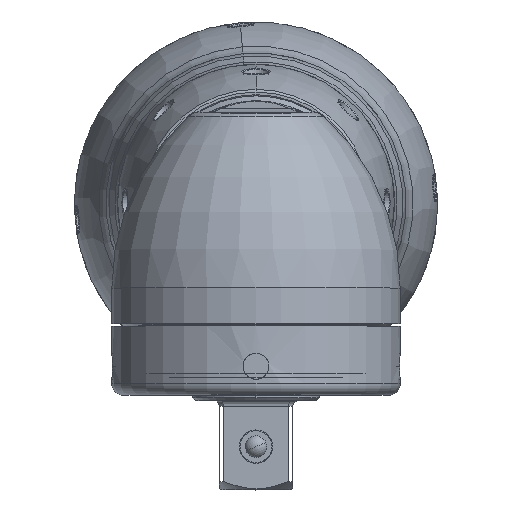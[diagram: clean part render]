
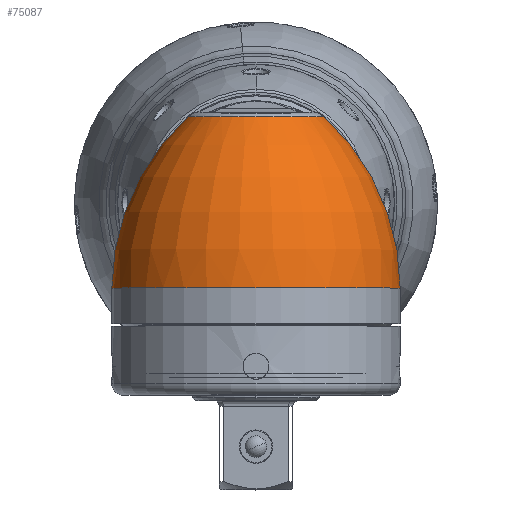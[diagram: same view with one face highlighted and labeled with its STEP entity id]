
A CAD part, top view. The second image highlights one B-rep face of the part: STEP entity #75087.
In plain terms, the highlighted toroidal (fillet/blend) face has major radius 15 mm and minor radius 40 mm.
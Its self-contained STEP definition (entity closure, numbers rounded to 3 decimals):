
#456 = VERTEX_POINT ( 'NONE', #47723 ) ;
#1076 = DIRECTION ( 'NONE',  ( -1., 0., 0. ) ) ;
#4790 = DIRECTION ( 'NONE',  ( 0., -1., 0. ) ) ;
#5847 = EDGE_CURVE ( 'NONE', #23508, #8789, #52778, .T. ) ;
#6838 = ORIENTED_EDGE ( 'NONE', *, *, #12906, .T. ) ;
#8789 = VERTEX_POINT ( 'NONE', #15214 ) ;
#9683 = AXIS2_PLACEMENT_3D ( 'NONE', #14654, #72864, #68203 ) ;
#11743 = CARTESIAN_POINT ( 'NONE',  ( 0., -15., 532.8 ) ) ;
#12610 = DIRECTION ( 'NONE',  ( 0., 0., 1. ) ) ;
#12906 = EDGE_CURVE ( 'NONE', #456, #24927, #58617, .T. ) ;
#14344 = ORIENTED_EDGE ( 'NONE', *, *, #40944, .T. ) ;
#14654 = CARTESIAN_POINT ( 'NONE',  ( 0., -15., 532.8 ) ) ;
#15021 = DIRECTION ( 'NONE',  ( 0., 0., -1. ) ) ;
#15214 = CARTESIAN_POINT ( 'NONE',  ( -25., -15., 532.8 ) ) ;
#23508 = VERTEX_POINT ( 'NONE', #41335 ) ;
#24543 = CARTESIAN_POINT ( 'NONE',  ( 15., -15., 532.8 ) ) ;
#24927 = VERTEX_POINT ( 'NONE', #62802 ) ;
#25283 = AXIS2_PLACEMENT_3D ( 'NONE', #51595, #15021, #57401 ) ;
#33367 = EDGE_LOOP ( 'NONE', ( #74431, #6838, #14344, #50074 ) ) ;
#33702 = DIRECTION ( 'NONE',  ( -1., 0., 0. ) ) ;
#34091 = FACE_OUTER_BOUND ( 'NONE', #33367, .T. ) ;
#34778 = AXIS2_PLACEMENT_3D ( 'NONE', #24543, #12610, #60757 ) ;
#36876 = DIRECTION ( 'NONE',  ( 0., -1., 0. ) ) ;
#37639 = AXIS2_PLACEMENT_3D ( 'NONE', #41523, #36876, #1076 ) ;
#40944 = EDGE_CURVE ( 'NONE', #24927, #8789, #65568, .T. ) ;
#41335 = CARTESIAN_POINT ( 'NONE',  ( 25., -15., 532.8 ) ) ;
#41429 = AXIS2_PLACEMENT_3D ( 'NONE', #11743, #4790, #33702 ) ;
#41523 = CARTESIAN_POINT ( 'NONE',  ( 0., 14.73, 532.8 ) ) ;
#47723 = CARTESIAN_POINT ( 'NONE',  ( 11.761, 14.73, 532.8 ) ) ;
#50074 = ORIENTED_EDGE ( 'NONE', *, *, #5847, .F. ) ;
#51595 = CARTESIAN_POINT ( 'NONE',  ( -15., -15., 532.8 ) ) ;
#52778 = CIRCLE ( 'NONE', #9683, 25. ) ;
#57401 = DIRECTION ( 'NONE',  ( 0., 1., 0. ) ) ;
#58504 = CIRCLE ( 'NONE', #25283, 40. ) ;
#58617 = CIRCLE ( 'NONE', #37639, 11.761 ) ;
#60757 = DIRECTION ( 'NONE',  ( 0., -1., 0. ) ) ;
#62802 = CARTESIAN_POINT ( 'NONE',  ( -11.761, 14.73, 532.8 ) ) ;
#65568 = CIRCLE ( 'NONE', #34778, 40. ) ;
#68203 = DIRECTION ( 'NONE',  ( -1., 0., 0. ) ) ;
#68543 = TOROIDAL_SURFACE ( 'NONE', #41429, -15., 40. ) ;
#72864 = DIRECTION ( 'NONE',  ( 0., -1., 0. ) ) ;
#73224 = EDGE_CURVE ( 'NONE', #456, #23508, #58504, .T. ) ;
#74431 = ORIENTED_EDGE ( 'NONE', *, *, #73224, .F. ) ;
#75087 = ADVANCED_FACE ( 'NONE', ( #34091 ), #68543, .T. ) ;
